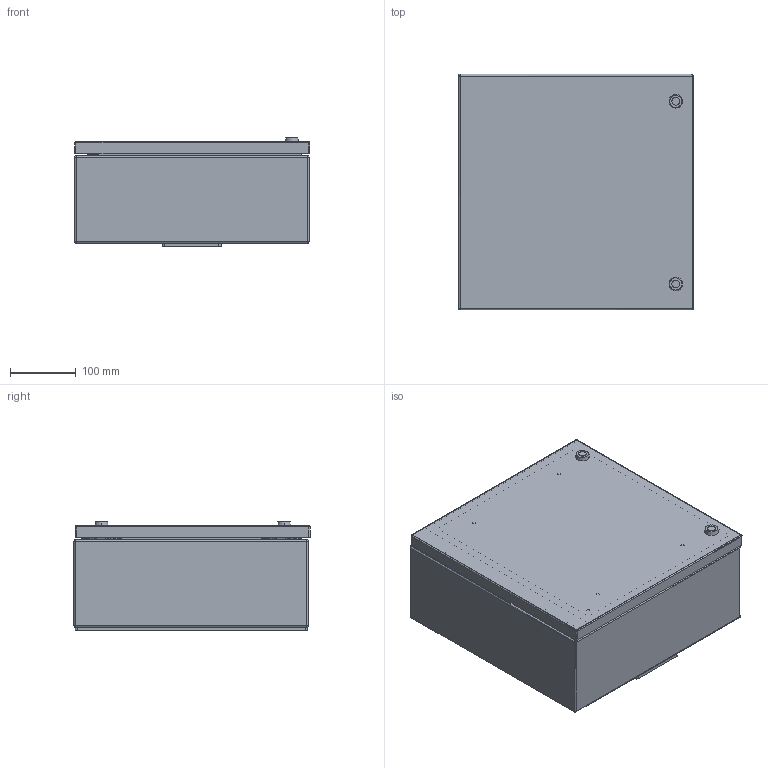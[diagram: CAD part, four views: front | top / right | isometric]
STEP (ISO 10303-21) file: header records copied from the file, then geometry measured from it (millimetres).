
FILE_DESCRIPTION (( 'STEP AP214' ), '1' );
FILE_NAME ('Enclosure Assembly, ENCL-TCxx.STEP', '2017-09-15T17:13:33', ( '' ), ( '' ), 'SwSTEP 2.0', 'SolidWorks 2017', '' );
FILE_SCHEMA (( 'AUTOMOTIVE_DESIGN' ));
Length unit declared in the file: inch
Products named in the file (21): TC Service Panel, 10716; self-clinching nut_pmi_PEM S-632-2 ZI--N; TC Service Panel Body; TC Gasket for Door, 10559; TC Enclosure Door; Hinge Bracket, Welded; TC Enclosure Body; flush stud_pmi_PEM FH-632-8 ZI--N; TC Latch; TC Wire Duct; TC Fan Bracket Body; Enclosure Assembly, ENCL-TCxx; Hinge Pin; Hinge Bracket; TC Stiffener Bracket; TC Mounting Bracket, 10719; self-clinching nut_pmm_PEM S-M4-2 ZI--N; TC Mounting Bracket Body; TC Gasket for Mounting, 10718
Assembly tree (56 placements, depth 3):
  Enclosure Assembly, ENCL-TCxx
    TC Enclosure Body
      TC Enclosure Body
      flush stud_pmi_PEM FH-632-8 ZI--N  x4
    TC Enclosure Door
      TC Enclosure Door
      flush stud_pmi_PEM FH-632-8 ZI--N  x5
      Hinge Bracket, Welded  x2
    TC Gasket for Door, 10559
    TC Service Panel, 10716
      TC Service Panel Body
      self-clinching nut_pmi_PEM S-632-2 ZI--N  x2
    TC Gasket for Mounting, 10718
    TC Mounting Bracket, 10719
      TC Mounting Bracket Body
      self-clinching nut_pmm_PEM S-M4-2 ZI--N  x24
    TC Stiffener Bracket
    Hinge Bracket  x2
    Hinge Pin  x2
    TC Fan Bracket Body
    TC Wire Duct
    TC Latch  x2
Bounding box: 356.31 x 357.67 x 165.02 mm (x, y, z)
Volume: 1333317.1 mm3; surface area: 1640250.2 mm2
Topology: 50 solids, 68 shells, 4341 faces, 11879 edges, 7698 vertices
Faces by surface type: plane 3116, cylinder 800, cone 355, bspline 36, torus 18, sphere 16
Entity records: 37365 total; most frequent: CARTESIAN_POINT 8693, DIRECTION 5648, ORIENTED_EDGE 5624, EDGE_CURVE 2824, VECTOR 1930, LINE 1930, AXIS2_PLACEMENT_3D 1859, VERTEX_POINT 1772
